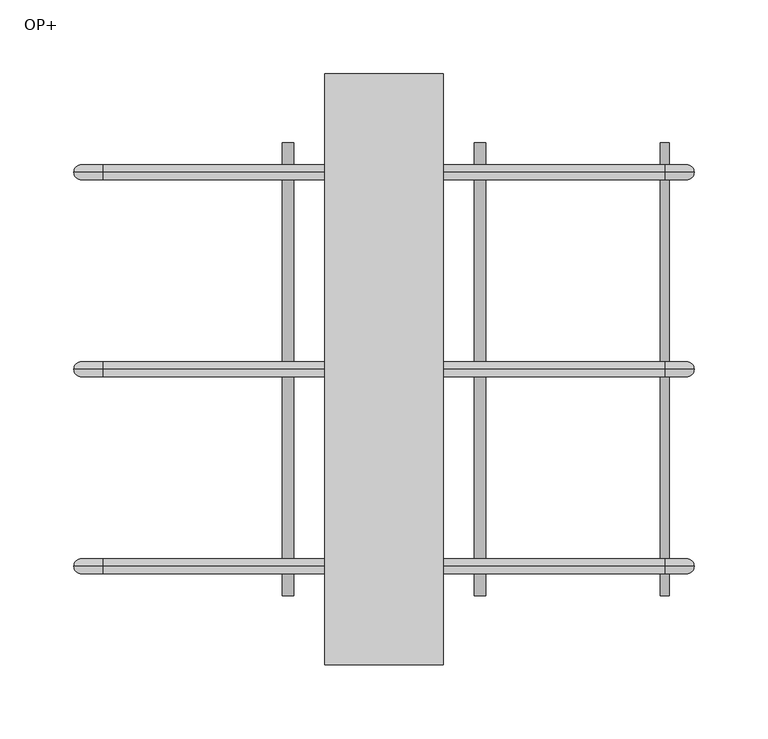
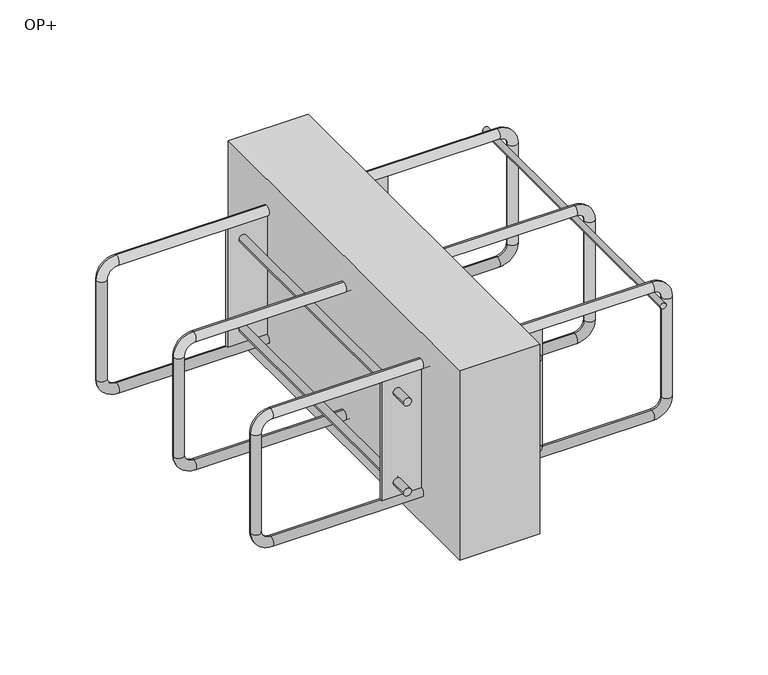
"""IFC4 building model written with IfcOpenShell, lengths in millimetres: proxy geometry, ACINOXplus_Typenreihe_Ux-Ox : OP+."""

import ifcopenshell
import ifcopenshell.guid

model = None  # the IFC model being written
_history = None  # IfcOwnerHistory: only IFC2X3 demands one
_inside = {}  # id of a spatial element -> (the spatial element, [elements in it])
_under = {}  # id of a project, library or spatial element -> (it, [spatial elements below it])
_declared = {}  # id of a project -> (the project, [libraries it declares])
_typed = {}  # id of a type object -> (the type object, [elements of that type])
_made_of = {}  # id of a material, layer set ... -> (it, [elements and type objects made of it])


def new_model(schema):
    """Start an empty IFC model of exactly this schema.

    Asked for "IFC4X3", IfcOpenShell would pick the latest addendum, in which some entities
    have other attributes; the version numbers below select the first issue.
    IFC2X3 requires an IfcOwnerHistory on every rooted entity: one is made here for all.
    """
    global model, _history
    if schema == "IFC4X3":
        model = ifcopenshell.file(schema_version=(4, 3, 0, 0))
    else:
        model = ifcopenshell.file(schema=schema)
    _inside.clear()
    _under.clear()
    _declared.clear()
    _typed.clear()
    _made_of.clear()
    _history = None
    if model.schema == "IFC2X3":
        org = make("IfcOrganization", Name="unknown")
        user = make(
            "IfcPersonAndOrganization",
            ThePerson=make("IfcPerson", FamilyName="unknown"),
            TheOrganization=org,
        )
        app = make(
            "IfcApplication",
            ApplicationDeveloper=org,
            Version="unknown",
            ApplicationFullName="unknown",
            ApplicationIdentifier="unknown",
        )
        _history = make(
            "IfcOwnerHistory",
            OwningUser=user,
            OwningApplication=app,
            ChangeAction="ADDED",
            CreationDate=0,
        )
    return model


def make(cls, **values):
    """One entity of the class cls with the attributes given. An attribute that is None is left unset."""
    return model.create_entity(
        cls, **{name: value for name, value in values.items() if value is not None}
    )


def rooted(cls, **values):
    """An entity with a GlobalId (a new one), such as an element, a storey or a relation."""
    return make(cls, GlobalId=ifcopenshell.guid.new(), OwnerHistory=_history, **values)


def si_unit(unit_type, name, prefix=None):
    """IfcSIUnit, for example si_unit("LENGTHUNIT", "METRE", prefix="MILLI")."""
    return make("IfcSIUnit", UnitType=unit_type, Prefix=prefix, Name=name)


def assignment(units):
    """IfcUnitAssignment: the units of a project."""
    return None if units is None else make("IfcUnitAssignment", Units=units)


def point(xyz):
    """IfcCartesianPoint."""
    return None if xyz is None else make("IfcCartesianPoint", Coordinates=xyz)


def direction(xyz):
    """IfcDirection."""
    return None if xyz is None else make("IfcDirection", DirectionRatios=xyz)


def frame(location, z_axis=None, x_axis=None):
    """IfcAxis2Placement3D, a coordinate frame: its origin and axes. An axis left out is left unset."""
    return make(
        "IfcAxis2Placement3D",
        Location=point(location),
        Axis=direction(z_axis),
        RefDirection=direction(x_axis),
    )


def frame_2d(location, x_axis=None):
    """IfcAxis2Placement2D, a coordinate frame in the plane: its origin and x axis."""
    return make(
        "IfcAxis2Placement2D", Location=point(location), RefDirection=direction(x_axis)
    )


def origin():
    """The frame at (0, 0, 0) with its axes left unset."""
    return frame((0.0, 0.0, 0.0))


def place(relative_to, where):
    """IfcLocalPlacement: puts the frame where relative to a parent placement (None: the world)."""
    return make(
        "IfcLocalPlacement", PlacementRelTo=relative_to, RelativePlacement=where
    )


def context(
    kind, dimensions, precision=None, world=None, true_north=None, identifier=None
):
    """IfcGeometricRepresentationContext, for example the 3D "Model" context."""
    return make(
        "IfcGeometricRepresentationContext",
        ContextIdentifier=identifier,
        ContextType=kind,
        CoordinateSpaceDimension=dimensions,
        Precision=precision,
        WorldCoordinateSystem=world,
        TrueNorth=true_north,
    )


def project(units=None, contexts=None):
    """IfcProject with its units and contexts."""
    return rooted(
        "IfcProject",
        Name="project",
        RepresentationContexts=contexts,
        UnitsInContext=assignment(units),
    )


def spatial(cls, under=None, at=None, **own):
    """A site, building, storey or space (cls), placed at a placement, below another one or the project."""
    s = rooted(cls, ObjectPlacement=at, **own)
    if under is not None:
        _under.setdefault(under.id(), (under, []))[1].append(s)
    return s


def polyline(points):
    """IfcPolyline through the points."""
    return make("IfcPolyline", Points=[point(p) for p in points])


def circle_curve(where, radius):
    """IfcCircle in the frame where."""
    return make("IfcCircle", Position=where, Radius=radius)


def ellipse_curve(where, semi_axis1, semi_axis2):
    """IfcEllipse in the frame where."""
    return make(
        "IfcEllipse", Position=where, SemiAxis1=semi_axis1, SemiAxis2=semi_axis2
    )


def trimmed(basis, trim1, trim2, sense, master):
    """IfcTrimmedCurve: the piece of a basis curve between two trims."""
    return make(
        "IfcTrimmedCurve",
        BasisCurve=basis,
        Trim1=trim1,
        Trim2=trim2,
        SenseAgreement=sense,
        MasterRepresentation=master,
    )


def segment(curve, same_sense, transition):
    """IfcCompositeCurveSegment."""
    return make(
        "IfcCompositeCurveSegment",
        Transition=transition,
        SameSense=same_sense,
        ParentCurve=curve,
    )


def composite_curve(segments, self_intersect=None):
    """IfcCompositeCurve: segments joined end to end."""
    return make("IfcCompositeCurve", Segments=segments, SelfIntersect=self_intersect)


def outline(outer, holes=None, kind="AREA"):
    """IfcArbitraryClosedProfileDef: a profile drawn as a closed curve; with holes, ...WithVoids."""
    if holes is None:
        return make("IfcArbitraryClosedProfileDef", ProfileType=kind, OuterCurve=outer)
    return make(
        "IfcArbitraryProfileDefWithVoids",
        ProfileType=kind,
        OuterCurve=outer,
        InnerCurves=holes,
    )


def extrude(swept, where, along, depth):
    """IfcExtrudedAreaSolid: the profile swept, set in the frame where, extruded along a direction by depth."""
    return make(
        "IfcExtrudedAreaSolid",
        SweptArea=swept,
        Position=where,
        ExtrudedDirection=direction(along),
        Depth=depth,
    )


def shape(context_of_items, identifier, shape_type, items):
    """IfcShapeRepresentation: the items that make up one representation, for example the "Body"."""
    return make(
        "IfcShapeRepresentation",
        ContextOfItems=context_of_items,
        RepresentationIdentifier=identifier,
        RepresentationType=shape_type,
        Items=items,
    )


def source(mapping_origin, context_of_items, identifier, shape_type, items):
    """IfcRepresentationMap: a shape defined once, which mapped items show again and again."""
    return make(
        "IfcRepresentationMap",
        MappingOrigin=mapping_origin,
        MappedRepresentation=shape(context_of_items, identifier, shape_type, items),
    )


def transform(
    local_origin,
    x_axis=None,
    y_axis=None,
    z_axis=None,
    scale=None,
    scale2=None,
    scale3=None,
    uniform=True,
):
    """IfcCartesianTransformationOperator3D, or its non-uniform kind. x_axis, y_axis, z_axis: its Axis1, 2, 3."""
    if uniform:
        return make(
            "IfcCartesianTransformationOperator3D",
            Axis1=direction(x_axis),
            Axis2=direction(y_axis),
            LocalOrigin=point(local_origin),
            Scale=scale,
            Axis3=direction(z_axis),
        )
    return make(
        "IfcCartesianTransformationOperator3DnonUniform",
        Axis1=direction(x_axis),
        Axis2=direction(y_axis),
        LocalOrigin=point(local_origin),
        Scale=scale,
        Axis3=direction(z_axis),
        Scale2=scale2,
        Scale3=scale3,
    )


def mapped(mapping_source, mapping_target):
    """IfcMappedItem: shows the shape of a source again, moved by a transform."""
    return make(
        "IfcMappedItem", MappingSource=mapping_source, MappingTarget=mapping_target
    )


def made_of(thing, what):
    """Note that an element or type object is made of a material, layer set ...; save() writes the relation."""
    if what is not None:
        _made_of.setdefault(what.id(), (what, []))[1].append(thing)
    return thing


def element(
    cls,
    number,
    at=None,
    inside=None,
    cuts=None,
    type_object=None,
    material=None,
    context=None,
    identifier="Body",
    shape_type=None,
    held_by="IfcProductDefinitionShape",
    body=None,
    shapes=None,
    **own,
):
    """One element of the class cls, such as IfcWall. Its Tag is "e" and its number.

    at: its placement. inside: the storey or other place that contains it. cuts: it is an
    opening in that element (IfcRelVoidsElement). A single representation is given by context,
    identifier, shape_type and body (its items); several are given by shapes. held_by: the class
    of the entity that holds the representations. save() writes the other relations.
    """
    e = rooted(cls, Tag="e%d" % number, ObjectPlacement=at, **own)
    if body is not None:
        shapes = [shape(context, identifier, shape_type, body)]
    if shapes is not None:
        e.Representation = make(held_by, Representations=shapes)
    if inside is not None:
        _inside.setdefault(inside.id(), (inside, []))[1].append(e)
    if cuts is not None:
        rooted(
            "IfcRelVoidsElement", RelatingBuildingElement=cuts, RelatedOpeningElement=e
        )
    if type_object is not None:
        _typed.setdefault(type_object.id(), (type_object, []))[1].append(e)
    return made_of(e, material)


def aggregate(whole, parts):
    """IfcRelAggregates: a whole, such as a stair, and the parts it consists of."""
    return rooted("IfcRelAggregates", RelatingObject=whole, RelatedObjects=parts)


def save(model, path):
    """Write the relations noted so far, then the file.

    IfcRelAggregates (storeys below a building ...), IfcRelContainedInSpatialStructure (elements
    in a storey), IfcRelDefinesByType, IfcRelAssociatesMaterial and IfcRelDeclares: one each for
    every whole, place, type object, material and project.
    """
    for whole, parts in _under.values():
        aggregate(whole, parts)
    for where, things in _inside.values():
        rooted(
            "IfcRelContainedInSpatialStructure",
            RelatedElements=things,
            RelatingStructure=where,
        )
    for kind, things in _typed.values():
        rooted("IfcRelDefinesByType", RelatedObjects=things, RelatingType=kind)
    for what, things in _made_of.values():
        rooted("IfcRelAssociatesMaterial", RelatedObjects=things, RelatingMaterial=what)
    for by, libraries in _declared.values():
        rooted("IfcRelDeclares", RelatingContext=by, RelatedDefinitions=libraries)
    model.write(path)


def cylinder_surface(at, radius):
    """IfcCylindricalSurface: all points at the distance radius from the z axis of the frame at."""
    return make("IfcCylindricalSurface", Position=at, Radius=radius)


def revolved_surface(curve, axis_point, axis_direction):
    """IfcSurfaceOfRevolution: the curve turned about the line through axis_point along axis_direction."""
    return make(
        "IfcSurfaceOfRevolution",
        SweptCurve=make("IfcArbitraryOpenProfileDef", ProfileType="CURVE", Curve=curve),
        AxisPosition=make("IfcAxis1Placement", Location=point(axis_point), Axis=direction(axis_direction)),
    )


def advanced_brep(points, edges, surfaces, faces):
    """IfcAdvancedBrep: a solid bounded by faces that lie on surfaces and meet in shared edges.

    An edge is (start, end): straight between two places in points (the first is 0);
    or (start, end, curve); or (start, end, curve, False) where it runs against its curve.
    A face is (place in surfaces, loops), or (place, loops, False) where it looks against
    its surface's normal. A loop lists edges by number (the first is 1), with a minus sign
    where the edge is run from its end to its start. The first loop is the outer one.
    """
    corners = [point(p) for p in points]
    vertices = [make("IfcVertexPoint", VertexGeometry=c) for c in corners]
    made = []
    for start, end, *more in edges:
        made.append(
            make(
                "IfcEdgeCurve",
                EdgeStart=vertices[start],
                EdgeEnd=vertices[end],
                EdgeGeometry=more[0] if more else make("IfcPolyline", Points=[corners[start], corners[end]]),
                SameSense=more[1] if len(more) > 1 else True,
            )
        )
    hull = []
    for where, loops, *sense in faces:
        bounds = []
        for j, loop in enumerate(loops):
            ring = [make("IfcOrientedEdge", EdgeElement=made[abs(k) - 1], Orientation=k > 0) for k in loop]
            bounds.append(
                make(
                    "IfcFaceOuterBound" if j == 0 else "IfcFaceBound",
                    Bound=make("IfcEdgeLoop", EdgeList=ring),
                    Orientation=True,
                )
            )
        hull.append(make("IfcAdvancedFace", Bounds=bounds, FaceSurface=surfaces[where], SameSense=sense[0] if sense else True))
    return make("IfcAdvancedBrep", Outer=make("IfcClosedShell", CfsFaces=hull))


def op_9fb88730(model_context):
    return source(origin(), model_context, "Body", "SolidModel", [
        extrude(outline(composite_curve([segment(trimmed(circle_curve(frame_2d((-40.5, 190.0)), 3.0), [point((-40.5, 193.0))], [point((-40.5, 187.0))], False, "CARTESIAN"), True, "CONTINUOUS"), segment(trimmed(circle_curve(frame_2d((-40.5, 190.0)), 3.0), [point((-40.5, 187.0))], [point((-40.5, 193.0))], False, "CARTESIAN"), True, "CONTINUOUS")], self_intersect=False)), frame((0.0, -153.3333333, 0.0), z_axis=(0.0, 1.0, 0.0), x_axis=(0.0, 0.0, 1.0)), (0.0, 0.0, 1.0), 306.6666667),
        extrude(outline(polyline([(40.0, 200.0), (40.0, -200.0), (-40.0, -200.0), (-40.0, 200.0), (40.0, 200.0)])), frame((0.0, 0.0, -200.0), z_axis=(0.0, 0.0, 1.0), x_axis=(1.0, 0.0, 0.0)), (0.0, 0.0, 1.0), 200.0),
        extrude(outline(polyline([(80.0, -131.8333333), (80.0, -134.8333333), (-80.0, -134.8333333), (-80.0, -131.8333333), (80.0, -131.8333333)])), frame((0.0, 0.0, -162.5), z_axis=(0.0, 0.0, 1.0), x_axis=(1.0, 0.0, 0.0)), (0.0, 0.0, 1.0), 125.0),
        extrude(outline(polyline([(80.0, 134.8333333), (80.0, 131.8333333), (-80.0, 131.8333333), (-80.0, 134.8333333), (80.0, 134.8333333)])), frame((0.0, 0.0, -162.5), z_axis=(0.0, 0.0, 1.0), x_axis=(1.0, 0.0, 0.0)), (0.0, 0.0, 1.0), 125.0),
        extrude(outline(composite_curve([segment(trimmed(circle_curve(frame_2d((-147.5, -65.0)), 4.0), [point((-147.5, -69.0))], [point((-147.5, -61.0))], False, "CARTESIAN"), True, "CONTINUOUS"), segment(trimmed(circle_curve(frame_2d((-147.5, -65.0)), 4.0), [point((-147.5, -61.0))], [point((-147.5, -69.0))], False, "CARTESIAN"), True, "CONTINUOUS")], self_intersect=False)), frame((0.0, 134.8333333, 0.0), z_axis=(0.0, 1.0, 0.0), x_axis=(0.0, 0.0, 1.0)), (0.0, 0.0, 1.0), 18.5),
        extrude(outline(composite_curve([segment(trimmed(circle_curve(frame_2d((-147.5, -65.0)), 4.0), [point((-147.5, -61.0))], [point((-147.5, -69.0))], False, "CARTESIAN"), True, "CONTINUOUS"), segment(trimmed(circle_curve(frame_2d((-147.5, -65.0)), 4.0), [point((-147.5, -69.0))], [point((-147.5, -61.0))], False, "CARTESIAN"), True, "CONTINUOUS")], self_intersect=False)), frame((0.0, -153.3333333, 0.0), z_axis=(0.0, 1.0, 0.0), x_axis=(0.0, 0.0, 1.0)), (0.0, 0.0, 1.0), 18.5),
        extrude(outline(composite_curve([segment(trimmed(circle_curve(frame_2d((-147.5, -65.0)), 4.0), [point((-147.5, -69.0))], [point((-147.5, -61.0))], False, "CARTESIAN"), True, "CONTINUOUS"), segment(trimmed(circle_curve(frame_2d((-147.5, -65.0)), 4.0), [point((-147.5, -61.0))], [point((-147.5, -69.0))], False, "CARTESIAN"), True, "CONTINUOUS")], self_intersect=False)), frame((0.0, -131.8333333, 0.0), z_axis=(0.0, 1.0, 0.0), x_axis=(0.0, 0.0, 1.0)), (0.0, 0.0, 1.0), 263.6666667),
        extrude(outline(composite_curve([segment(trimmed(circle_curve(frame_2d((-147.5, 65.0)), 4.0), [point((-147.5, 61.0))], [point((-147.5, 69.0))], False, "CARTESIAN"), True, "CONTINUOUS"), segment(trimmed(circle_curve(frame_2d((-147.5, 65.0)), 4.0), [point((-147.5, 69.0))], [point((-147.5, 61.0))], False, "CARTESIAN"), True, "CONTINUOUS")], self_intersect=False)), frame((0.0, 134.8333333, 0.0), z_axis=(0.0, 1.0, 0.0), x_axis=(0.0, 0.0, 1.0)), (0.0, 0.0, 1.0), 18.5),
        extrude(outline(composite_curve([segment(trimmed(circle_curve(frame_2d((-147.5, 65.0)), 4.0), [point((-147.5, 69.0))], [point((-147.5, 61.0))], False, "CARTESIAN"), True, "CONTINUOUS"), segment(trimmed(circle_curve(frame_2d((-147.5, 65.0)), 4.0), [point((-147.5, 61.0))], [point((-147.5, 69.0))], False, "CARTESIAN"), True, "CONTINUOUS")], self_intersect=False)), frame((0.0, -153.3333333, 0.0), z_axis=(0.0, 1.0, 0.0), x_axis=(0.0, 0.0, 1.0)), (0.0, 0.0, 1.0), 18.5),
        extrude(outline(composite_curve([segment(trimmed(circle_curve(frame_2d((-147.5, 65.0)), 4.0), [point((-147.5, 61.0))], [point((-147.5, 69.0))], False, "CARTESIAN"), True, "CONTINUOUS"), segment(trimmed(circle_curve(frame_2d((-147.5, 65.0)), 4.0), [point((-147.5, 69.0))], [point((-147.5, 61.0))], False, "CARTESIAN"), True, "CONTINUOUS")], self_intersect=False)), frame((0.0, -131.8333333, 0.0), z_axis=(0.0, 1.0, 0.0), x_axis=(0.0, 0.0, 1.0)), (0.0, 0.0, 1.0), 263.6666667),
        extrude(outline(composite_curve([segment(trimmed(circle_curve(frame_2d((-52.5, -65.0)), 4.0), [point((-52.5, -69.0))], [point((-52.5, -61.0))], False, "CARTESIAN"), True, "CONTINUOUS"), segment(trimmed(circle_curve(frame_2d((-52.5, -65.0)), 4.0), [point((-52.5, -61.0))], [point((-52.5, -69.0))], False, "CARTESIAN"), True, "CONTINUOUS")], self_intersect=False)), frame((0.0, 134.8333333, 0.0), z_axis=(0.0, 1.0, 0.0), x_axis=(0.0, 0.0, 1.0)), (0.0, 0.0, 1.0), 18.5),
        extrude(outline(composite_curve([segment(trimmed(circle_curve(frame_2d((-52.5, -65.0)), 4.0), [point((-52.5, -61.0))], [point((-52.5, -69.0))], False, "CARTESIAN"), True, "CONTINUOUS"), segment(trimmed(circle_curve(frame_2d((-52.5, -65.0)), 4.0), [point((-52.5, -69.0))], [point((-52.5, -61.0))], False, "CARTESIAN"), True, "CONTINUOUS")], self_intersect=False)), frame((0.0, -153.3333333, 0.0), z_axis=(0.0, 1.0, 0.0), x_axis=(0.0, 0.0, 1.0)), (0.0, 0.0, 1.0), 18.5),
        extrude(outline(composite_curve([segment(trimmed(circle_curve(frame_2d((-52.5, -65.0)), 4.0), [point((-52.5, -69.0))], [point((-52.5, -61.0))], False, "CARTESIAN"), True, "CONTINUOUS"), segment(trimmed(circle_curve(frame_2d((-52.5, -65.0)), 4.0), [point((-52.5, -61.0))], [point((-52.5, -69.0))], False, "CARTESIAN"), True, "CONTINUOUS")], self_intersect=False)), frame((0.0, -131.8333333, 0.0), z_axis=(0.0, 1.0, 0.0), x_axis=(0.0, 0.0, 1.0)), (0.0, 0.0, 1.0), 263.6666667),
        extrude(outline(composite_curve([segment(trimmed(circle_curve(frame_2d((-52.5, 65.0)), 4.0), [point((-52.5, 61.0))], [point((-52.5, 69.0))], False, "CARTESIAN"), True, "CONTINUOUS"), segment(trimmed(circle_curve(frame_2d((-52.5, 65.0)), 4.0), [point((-52.5, 69.0))], [point((-52.5, 61.0))], False, "CARTESIAN"), True, "CONTINUOUS")], self_intersect=False)), frame((0.0, 134.8333333, 0.0), z_axis=(0.0, 1.0, 0.0), x_axis=(0.0, 0.0, 1.0)), (0.0, 0.0, 1.0), 18.5),
        extrude(outline(composite_curve([segment(trimmed(circle_curve(frame_2d((-52.5, 65.0)), 4.0), [point((-52.5, 69.0))], [point((-52.5, 61.0))], False, "CARTESIAN"), True, "CONTINUOUS"), segment(trimmed(circle_curve(frame_2d((-52.5, 65.0)), 4.0), [point((-52.5, 61.0))], [point((-52.5, 69.0))], False, "CARTESIAN"), True, "CONTINUOUS")], self_intersect=False)), frame((0.0, -153.3333333, 0.0), z_axis=(0.0, 1.0, 0.0), x_axis=(0.0, 0.0, 1.0)), (0.0, 0.0, 1.0), 18.5),
        extrude(outline(composite_curve([segment(trimmed(circle_curve(frame_2d((-52.5, 65.0)), 4.0), [point((-52.5, 61.0))], [point((-52.5, 69.0))], False, "CARTESIAN"), True, "CONTINUOUS"), segment(trimmed(circle_curve(frame_2d((-52.5, 65.0)), 4.0), [point((-52.5, 69.0))], [point((-52.5, 61.0))], False, "CARTESIAN"), True, "CONTINUOUS")], self_intersect=False)), frame((0.0, -131.8333333, 0.0), z_axis=(0.0, 1.0, 0.0), x_axis=(0.0, 0.0, 1.0)), (0.0, 0.0, 1.0), 263.6666667),
        advanced_brep(
        [(190.0, 0.0, -37.5), (190.0, 0.0, -27.5), (-190.0, 0.0, -27.5), (-190.0, 0.0, -37.5), (-200.0, 0.0, -47.5), (-210.0, 0.0, -47.5), (-210.0, 0.0, -152.5), (-200.0, 0.0, -152.5), (-190.0, 0.0, -162.5), (-190.0, 0.0, -172.5), (190.0, 0.0, -172.5), (190.0, 0.0, -162.5), (200.0, 0.0, -152.5), (210.0, 0.0, -152.5), (210.0, 0.0, -47.5), (200.0, 0.0, -47.5)],
        [
            (0, 1, circle_curve(frame((190.0, 0.0, -32.5), z_axis=(-1.0, 0.0, 0.0), x_axis=(0.0, 0.0, -1.0)), 5.0)),
            (1, 2),
            (2, 3, circle_curve(frame((-190.0, 0.0, -32.5), z_axis=(1.0, 0.0, 0.0), x_axis=(0.0, 0.0, -1.0)), 5.0)),
            (3, 0),
            (1, 0, circle_curve(frame((190.0, 0.0, -32.5), z_axis=(-1.0, 0.0, 0.0), x_axis=(0.0, 0.0, -1.0)), 5.0)),
            (3, 2, circle_curve(frame((-190.0, 0.0, -32.5), z_axis=(1.0, 0.0, 0.0), x_axis=(0.0, 0.0, -1.0)), 5.0)),
            (4, 3, circle_curve(frame((-190.0, 0.0, -47.5), z_axis=(0.0, 1.0, 0.0), x_axis=(0.0, 0.0, 1.0)), 10.0)),
            (2, 5, circle_curve(frame((-190.0, 0.0, -47.5), z_axis=(0.0, -1.0, 0.0), x_axis=(0.0, 0.0, 1.0)), 20.0)),
            (5, 4, circle_curve(frame((-205.0, 0.0, -47.5), z_axis=(0.0, 0.0, 1.0), x_axis=(1.0, 0.0, 0.0)), 5.0)),
            (4, 5, circle_curve(frame((-205.0, 0.0, -47.5), z_axis=(0.0, 0.0, 1.0), x_axis=(1.0, 0.0, 0.0)), 5.0)),
            (5, 6),
            (6, 7, circle_curve(frame((-205.0, 0.0, -152.5), z_axis=(0.0, 0.0, 1.0), x_axis=(1.0, 0.0, 0.0)), 5.0)),
            (7, 4),
            (7, 6, circle_curve(frame((-205.0, 0.0, -152.5), z_axis=(0.0, 0.0, 1.0), x_axis=(1.0, 0.0, 0.0)), 5.0)),
            (8, 7, circle_curve(frame((-190.0, 0.0, -152.5), z_axis=(0.0, 1.0, 0.0), x_axis=(-1.0, 0.0, 0.0)), 10.0)),
            (6, 9, circle_curve(frame((-190.0, 0.0, -152.5), z_axis=(0.0, -1.0, 0.0), x_axis=(-1.0, 0.0, 0.0)), 20.0)),
            (9, 8, circle_curve(frame((-190.0, 0.0, -167.5), z_axis=(-1.0, 0.0, 0.0), x_axis=(0.0, 0.0, 1.0)), 5.0)),
            (8, 9, circle_curve(frame((-190.0, 0.0, -167.5), z_axis=(-1.0, 0.0, 0.0), x_axis=(0.0, 0.0, 1.0)), 5.0)),
            (9, 10),
            (10, 11, circle_curve(frame((190.0, 0.0, -167.5), z_axis=(-1.0, 0.0, 0.0), x_axis=(0.0, 0.0, 1.0)), 5.0)),
            (11, 8),
            (11, 10, circle_curve(frame((190.0, 0.0, -167.5), z_axis=(-1.0, 0.0, 0.0), x_axis=(0.0, 0.0, 1.0)), 5.0)),
            (12, 11, circle_curve(frame((190.0, 0.0, -152.5), z_axis=(0.0, 1.0, 0.0), x_axis=(0.0, 0.0, -1.0)), 10.0)),
            (10, 13, circle_curve(frame((190.0, 0.0, -152.5), z_axis=(0.0, -1.0, 0.0), x_axis=(0.0, 0.0, -1.0)), 20.0)),
            (13, 12, circle_curve(frame((205.0, 0.0, -152.5), z_axis=(0.0, 0.0, -1.0), x_axis=(-1.0, 0.0, 0.0)), 5.0)),
            (12, 13, circle_curve(frame((205.0, 0.0, -152.5), z_axis=(0.0, 0.0, -1.0), x_axis=(-1.0, 0.0, 0.0)), 5.0)),
            (13, 14),
            (14, 15, circle_curve(frame((205.0, 0.0, -47.5), z_axis=(0.0, 0.0, -1.0), x_axis=(-1.0, 0.0, 0.0)), 5.0)),
            (15, 12),
            (15, 14, circle_curve(frame((205.0, 0.0, -47.5), z_axis=(0.0, 0.0, -1.0), x_axis=(-1.0, 0.0, 0.0)), 5.0)),
            (0, 15, circle_curve(frame((190.0, 0.0, -47.5), z_axis=(0.0, 1.0, 0.0), x_axis=(1.0, 0.0, 0.0)), 10.0)),
            (14, 1, circle_curve(frame((190.0, 0.0, -47.5), z_axis=(0.0, -1.0, 0.0), x_axis=(1.0, 0.0, 0.0)), 20.0)),
        ],
        [
            cylinder_surface(frame((190.0, 0.0, -32.5), z_axis=(1.0, 0.0, 0.0), x_axis=(0.0, 0.0, -1.0)), 5.0),
            revolved_surface(trimmed(ellipse_curve(frame((-190.0, 0.0, -32.5), z_axis=(1.0, 0.0, 0.0), x_axis=(0.0, 0.0, -1.0)), 5.0, 5.0), [point((-190.0, 0.0, -27.5))], [point((-190.0, 0.0, -37.5))], True, "CARTESIAN"), (-190.0, 0.0, -47.5), (0.0, -1.0, 0.0)),
            revolved_surface(trimmed(ellipse_curve(frame((-190.0, 0.0, -32.5), z_axis=(1.0, 0.0, 0.0), x_axis=(0.0, 0.0, -1.0)), 5.0, 5.0), [point((-190.0, 0.0, -37.5))], [point((-190.0, 0.0, -27.5))], True, "CARTESIAN"), (-190.0, 0.0, -47.5), (0.0, -1.0, 0.0)),
            cylinder_surface(frame((-205.0, 0.0, -47.5), z_axis=(0.0, 0.0, 1.0), x_axis=(1.0, 0.0, 0.0)), 5.0),
            revolved_surface(trimmed(ellipse_curve(frame((-205.0, 0.0, -152.5), z_axis=(0.0, 0.0, 1.0), x_axis=(1.0, 0.0, 0.0)), 5.0, 5.0), [point((-210.0, 0.0, -152.5))], [point((-200.0, 0.0, -152.5))], True, "CARTESIAN"), (-190.0, 0.0, -152.5), (0.0, -1.0, 0.0)),
            revolved_surface(trimmed(ellipse_curve(frame((-205.0, 0.0, -152.5), z_axis=(0.0, 0.0, 1.0), x_axis=(1.0, 0.0, 0.0)), 5.0, 5.0), [point((-200.0, 0.0, -152.5))], [point((-210.0, 0.0, -152.5))], True, "CARTESIAN"), (-190.0, 0.0, -152.5), (0.0, -1.0, 0.0)),
            cylinder_surface(frame((-190.0, 0.0, -167.5), z_axis=(-1.0, 0.0, 0.0), x_axis=(0.0, 0.0, 1.0)), 5.0),
            revolved_surface(trimmed(ellipse_curve(frame((190.0, 0.0, -167.5), z_axis=(-1.0, 0.0, 0.0), x_axis=(0.0, 0.0, 1.0)), 5.0, 5.0), [point((190.0, 0.0, -172.5))], [point((190.0, 0.0, -162.5))], True, "CARTESIAN"), (190.0, 0.0, -152.5), (0.0, -1.0, 0.0)),
            revolved_surface(trimmed(ellipse_curve(frame((190.0, 0.0, -167.5), z_axis=(-1.0, 0.0, 0.0), x_axis=(0.0, 0.0, 1.0)), 5.0, 5.0), [point((190.0, 0.0, -162.5))], [point((190.0, 0.0, -172.5))], True, "CARTESIAN"), (190.0, 0.0, -152.5), (0.0, -1.0, 0.0)),
            cylinder_surface(frame((205.0, 0.0, -152.5), z_axis=(0.0, 0.0, -1.0), x_axis=(-1.0, 0.0, 0.0)), 5.0),
            revolved_surface(trimmed(ellipse_curve(frame((205.0, 0.0, -47.5), z_axis=(0.0, 0.0, -1.0), x_axis=(-1.0, 0.0, 0.0)), 5.0, 5.0), [point((210.0, 0.0, -47.5))], [point((200.0, 0.0, -47.5))], True, "CARTESIAN"), (190.0, 0.0, -47.5), (0.0, -1.0, 0.0)),
            revolved_surface(trimmed(ellipse_curve(frame((205.0, 0.0, -47.5), z_axis=(0.0, 0.0, -1.0), x_axis=(-1.0, 0.0, 0.0)), 5.0, 5.0), [point((200.0, 0.0, -47.5))], [point((210.0, 0.0, -47.5))], True, "CARTESIAN"), (190.0, 0.0, -47.5), (0.0, -1.0, 0.0)),
        ],
        [
            (0, [[1, 2, 3, 4]]),
            (0, [[5, -4, 6, -2]]),
            (1, [[7, -3, 8, 9]]),
            (2, [[-8, -6, -7, 10]]),
            (3, [[-9, 11, 12, 13]]),
            (3, [[-10, -13, 14, -11]]),
            (4, [[15, -12, 16, 17]]),
            (5, [[-16, -14, -15, 18]]),
            (6, [[-17, 19, 20, 21]]),
            (6, [[-18, -21, 22, -19]]),
            (7, [[23, -20, 24, 25]]),
            (8, [[-24, -22, -23, 26]]),
            (9, [[-25, 27, 28, 29]]),
            (9, [[-26, -29, 30, -27]]),
            (10, [[31, -28, 32, -1]]),
            (11, [[-32, -30, -31, -5]]),
        ],
    ),
        advanced_brep(
        [(190.0, 133.3333333, -37.5), (190.0, 133.3333333, -27.5), (-190.0, 133.3333333, -27.5), (-190.0, 133.3333333, -37.5), (-200.0, 133.3333333, -47.5), (-210.0, 133.3333333, -47.5), (-210.0, 133.3333333, -152.5), (-200.0, 133.3333333, -152.5), (-190.0, 133.3333333, -162.5), (-190.0, 133.3333333, -172.5), (190.0, 133.3333333, -172.5), (190.0, 133.3333333, -162.5), (200.0, 133.3333333, -152.5), (210.0, 133.3333333, -152.5), (210.0, 133.3333333, -47.5), (200.0, 133.3333333, -47.5)],
        [
            (0, 1, circle_curve(frame((190.0, 133.3333333, -32.5), z_axis=(-1.0, 0.0, 0.0), x_axis=(0.0, 0.0, -1.0)), 5.0)),
            (1, 2),
            (2, 3, circle_curve(frame((-190.0, 133.3333333, -32.5), z_axis=(1.0, 0.0, 0.0), x_axis=(0.0, 0.0, -1.0)), 5.0)),
            (3, 0),
            (1, 0, circle_curve(frame((190.0, 133.3333333, -32.5), z_axis=(-1.0, 0.0, 0.0), x_axis=(0.0, 0.0, -1.0)), 5.0)),
            (3, 2, circle_curve(frame((-190.0, 133.3333333, -32.5), z_axis=(1.0, 0.0, 0.0), x_axis=(0.0, 0.0, -1.0)), 5.0)),
            (4, 3, circle_curve(frame((-190.0, 133.3333333, -47.5), z_axis=(0.0, 1.0, 0.0), x_axis=(0.0, 0.0, 1.0)), 10.0)),
            (2, 5, circle_curve(frame((-190.0, 133.3333333, -47.5), z_axis=(0.0, -1.0, 0.0), x_axis=(0.0, 0.0, 1.0)), 20.0)),
            (5, 4, circle_curve(frame((-205.0, 133.3333333, -47.5), z_axis=(0.0, 0.0, 1.0), x_axis=(1.0, 0.0, 0.0)), 5.0)),
            (4, 5, circle_curve(frame((-205.0, 133.3333333, -47.5), z_axis=(0.0, 0.0, 1.0), x_axis=(1.0, 0.0, 0.0)), 5.0)),
            (5, 6),
            (6, 7, circle_curve(frame((-205.0, 133.3333333, -152.5), z_axis=(0.0, 0.0, 1.0), x_axis=(1.0, 0.0, 0.0)), 5.0)),
            (7, 4),
            (7, 6, circle_curve(frame((-205.0, 133.3333333, -152.5), z_axis=(0.0, 0.0, 1.0), x_axis=(1.0, 0.0, 0.0)), 5.0)),
            (8, 7, circle_curve(frame((-190.0, 133.3333333, -152.5), z_axis=(0.0, 1.0, 0.0), x_axis=(-1.0, 0.0, 0.0)), 10.0)),
            (6, 9, circle_curve(frame((-190.0, 133.3333333, -152.5), z_axis=(0.0, -1.0, 0.0), x_axis=(-1.0, 0.0, 0.0)), 20.0)),
            (9, 8, circle_curve(frame((-190.0, 133.3333333, -167.5), z_axis=(-1.0, 0.0, 0.0), x_axis=(0.0, 0.0, 1.0)), 5.0)),
            (8, 9, circle_curve(frame((-190.0, 133.3333333, -167.5), z_axis=(-1.0, 0.0, 0.0), x_axis=(0.0, 0.0, 1.0)), 5.0)),
            (9, 10),
            (10, 11, circle_curve(frame((190.0, 133.3333333, -167.5), z_axis=(-1.0, 0.0, 0.0), x_axis=(0.0, 0.0, 1.0)), 5.0)),
            (11, 8),
            (11, 10, circle_curve(frame((190.0, 133.3333333, -167.5), z_axis=(-1.0, 0.0, 0.0), x_axis=(0.0, 0.0, 1.0)), 5.0)),
            (12, 11, circle_curve(frame((190.0, 133.3333333, -152.5), z_axis=(0.0, 1.0, 0.0), x_axis=(0.0, 0.0, -1.0)), 10.0)),
            (10, 13, circle_curve(frame((190.0, 133.3333333, -152.5), z_axis=(0.0, -1.0, 0.0), x_axis=(0.0, 0.0, -1.0)), 20.0)),
            (13, 12, circle_curve(frame((205.0, 133.3333333, -152.5), z_axis=(0.0, 0.0, -1.0), x_axis=(-1.0, 0.0, 0.0)), 5.0)),
            (12, 13, circle_curve(frame((205.0, 133.3333333, -152.5), z_axis=(0.0, 0.0, -1.0), x_axis=(-1.0, 0.0, 0.0)), 5.0)),
            (13, 14),
            (14, 15, circle_curve(frame((205.0, 133.3333333, -47.5), z_axis=(0.0, 0.0, -1.0), x_axis=(-1.0, 0.0, 0.0)), 5.0)),
            (15, 12),
            (15, 14, circle_curve(frame((205.0, 133.3333333, -47.5), z_axis=(0.0, 0.0, -1.0), x_axis=(-1.0, 0.0, 0.0)), 5.0)),
            (0, 15, circle_curve(frame((190.0, 133.3333333, -47.5), z_axis=(0.0, 1.0, 0.0), x_axis=(1.0, 0.0, 0.0)), 10.0)),
            (14, 1, circle_curve(frame((190.0, 133.3333333, -47.5), z_axis=(0.0, -1.0, 0.0), x_axis=(1.0, 0.0, 0.0)), 20.0)),
        ],
        [
            cylinder_surface(frame((190.0, 133.3333333, -32.5), z_axis=(1.0, 0.0, 0.0), x_axis=(0.0, 0.0, -1.0)), 5.0),
            revolved_surface(trimmed(ellipse_curve(frame((-190.0, 133.3333333, -32.5), z_axis=(1.0, 0.0, 0.0), x_axis=(0.0, 0.0, -1.0)), 5.0, 5.0), [point((-190.0, 133.3333333, -27.5))], [point((-190.0, 133.3333333, -37.5))], True, "CARTESIAN"), (-190.0, 133.3333333, -47.5), (0.0, -1.0, 0.0)),
            revolved_surface(trimmed(ellipse_curve(frame((-190.0, 133.3333333, -32.5), z_axis=(1.0, 0.0, 0.0), x_axis=(0.0, 0.0, -1.0)), 5.0, 5.0), [point((-190.0, 133.3333333, -37.5))], [point((-190.0, 133.3333333, -27.5))], True, "CARTESIAN"), (-190.0, 133.3333333, -47.5), (0.0, -1.0, 0.0)),
            cylinder_surface(frame((-205.0, 133.3333333, -47.5), z_axis=(0.0, 0.0, 1.0), x_axis=(1.0, 0.0, 0.0)), 5.0),
            revolved_surface(trimmed(ellipse_curve(frame((-205.0, 133.3333333, -152.5), z_axis=(0.0, 0.0, 1.0), x_axis=(1.0, 0.0, 0.0)), 5.0, 5.0), [point((-210.0, 133.3333333, -152.5))], [point((-200.0, 133.3333333, -152.5))], True, "CARTESIAN"), (-190.0, 133.3333333, -152.5), (0.0, -1.0, 0.0)),
            revolved_surface(trimmed(ellipse_curve(frame((-205.0, 133.3333333, -152.5), z_axis=(0.0, 0.0, 1.0), x_axis=(1.0, 0.0, 0.0)), 5.0, 5.0), [point((-200.0, 133.3333333, -152.5))], [point((-210.0, 133.3333333, -152.5))], True, "CARTESIAN"), (-190.0, 133.3333333, -152.5), (0.0, -1.0, 0.0)),
            cylinder_surface(frame((-190.0, 133.3333333, -167.5), z_axis=(-1.0, 0.0, 0.0), x_axis=(0.0, 0.0, 1.0)), 5.0),
            revolved_surface(trimmed(ellipse_curve(frame((190.0, 133.3333333, -167.5), z_axis=(-1.0, 0.0, 0.0), x_axis=(0.0, 0.0, 1.0)), 5.0, 5.0), [point((190.0, 133.3333333, -172.5))], [point((190.0, 133.3333333, -162.5))], True, "CARTESIAN"), (190.0, 133.3333333, -152.5), (0.0, -1.0, 0.0)),
            revolved_surface(trimmed(ellipse_curve(frame((190.0, 133.3333333, -167.5), z_axis=(-1.0, 0.0, 0.0), x_axis=(0.0, 0.0, 1.0)), 5.0, 5.0), [point((190.0, 133.3333333, -162.5))], [point((190.0, 133.3333333, -172.5))], True, "CARTESIAN"), (190.0, 133.3333333, -152.5), (0.0, -1.0, 0.0)),
            cylinder_surface(frame((205.0, 133.3333333, -152.5), z_axis=(0.0, 0.0, -1.0), x_axis=(-1.0, 0.0, 0.0)), 5.0),
            revolved_surface(trimmed(ellipse_curve(frame((205.0, 133.3333333, -47.5), z_axis=(0.0, 0.0, -1.0), x_axis=(-1.0, 0.0, 0.0)), 5.0, 5.0), [point((210.0, 133.3333333, -47.5))], [point((200.0, 133.3333333, -47.5))], True, "CARTESIAN"), (190.0, 133.3333333, -47.5), (0.0, -1.0, 0.0)),
            revolved_surface(trimmed(ellipse_curve(frame((205.0, 133.3333333, -47.5), z_axis=(0.0, 0.0, -1.0), x_axis=(-1.0, 0.0, 0.0)), 5.0, 5.0), [point((200.0, 133.3333333, -47.5))], [point((210.0, 133.3333333, -47.5))], True, "CARTESIAN"), (190.0, 133.3333333, -47.5), (0.0, -1.0, 0.0)),
        ],
        [
            (0, [[1, 2, 3, 4]]),
            (0, [[5, -4, 6, -2]]),
            (1, [[7, -3, 8, 9]]),
            (2, [[-8, -6, -7, 10]]),
            (3, [[-9, 11, 12, 13]]),
            (3, [[-10, -13, 14, -11]]),
            (4, [[15, -12, 16, 17]]),
            (5, [[-16, -14, -15, 18]]),
            (6, [[-17, 19, 20, 21]]),
            (6, [[-18, -21, 22, -19]]),
            (7, [[23, -20, 24, 25]]),
            (8, [[-24, -22, -23, 26]]),
            (9, [[-25, 27, 28, 29]]),
            (9, [[-26, -29, 30, -27]]),
            (10, [[31, -28, 32, -1]]),
            (11, [[-32, -30, -31, -5]]),
        ],
    ),
        advanced_brep(
        [(190.0, -133.3333333, -37.5), (190.0, -133.3333333, -27.5), (-190.0, -133.3333333, -27.5), (-190.0, -133.3333333, -37.5), (-200.0, -133.3333333, -47.5), (-210.0, -133.3333333, -47.5), (-210.0, -133.3333333, -152.5), (-200.0, -133.3333333, -152.5), (-190.0, -133.3333333, -162.5), (-190.0, -133.3333333, -172.5), (190.0, -133.3333333, -172.5), (190.0, -133.3333333, -162.5), (200.0, -133.3333333, -152.5), (210.0, -133.3333333, -152.5), (210.0, -133.3333333, -47.5), (200.0, -133.3333333, -47.5)],
        [
            (0, 1, circle_curve(frame((190.0, -133.3333333, -32.5), z_axis=(-1.0, 0.0, 0.0), x_axis=(0.0, 0.0, -1.0)), 5.0)),
            (1, 2),
            (2, 3, circle_curve(frame((-190.0, -133.3333333, -32.5), z_axis=(1.0, 0.0, 0.0), x_axis=(0.0, 0.0, -1.0)), 5.0)),
            (3, 0),
            (1, 0, circle_curve(frame((190.0, -133.3333333, -32.5), z_axis=(-1.0, 0.0, 0.0), x_axis=(0.0, 0.0, -1.0)), 5.0)),
            (3, 2, circle_curve(frame((-190.0, -133.3333333, -32.5), z_axis=(1.0, 0.0, 0.0), x_axis=(0.0, 0.0, -1.0)), 5.0)),
            (4, 3, circle_curve(frame((-190.0, -133.3333333, -47.5), z_axis=(0.0, 1.0, 0.0), x_axis=(0.0, 0.0, 1.0)), 10.0)),
            (2, 5, circle_curve(frame((-190.0, -133.3333333, -47.5), z_axis=(0.0, -1.0, 0.0), x_axis=(0.0, 0.0, 1.0)), 20.0)),
            (5, 4, circle_curve(frame((-205.0, -133.3333333, -47.5), z_axis=(0.0, 0.0, 1.0), x_axis=(1.0, 0.0, 0.0)), 5.0)),
            (4, 5, circle_curve(frame((-205.0, -133.3333333, -47.5), z_axis=(0.0, 0.0, 1.0), x_axis=(1.0, 0.0, 0.0)), 5.0)),
            (5, 6),
            (6, 7, circle_curve(frame((-205.0, -133.3333333, -152.5), z_axis=(0.0, 0.0, 1.0), x_axis=(1.0, 0.0, 0.0)), 5.0)),
            (7, 4),
            (7, 6, circle_curve(frame((-205.0, -133.3333333, -152.5), z_axis=(0.0, 0.0, 1.0), x_axis=(1.0, 0.0, 0.0)), 5.0)),
            (8, 7, circle_curve(frame((-190.0, -133.3333333, -152.5), z_axis=(0.0, 1.0, 0.0), x_axis=(-1.0, 0.0, 0.0)), 10.0)),
            (6, 9, circle_curve(frame((-190.0, -133.3333333, -152.5), z_axis=(0.0, -1.0, 0.0), x_axis=(-1.0, 0.0, 0.0)), 20.0)),
            (9, 8, circle_curve(frame((-190.0, -133.3333333, -167.5), z_axis=(-1.0, 0.0, 0.0), x_axis=(0.0, 0.0, 1.0)), 5.0)),
            (8, 9, circle_curve(frame((-190.0, -133.3333333, -167.5), z_axis=(-1.0, 0.0, 0.0), x_axis=(0.0, 0.0, 1.0)), 5.0)),
            (9, 10),
            (10, 11, circle_curve(frame((190.0, -133.3333333, -167.5), z_axis=(-1.0, 0.0, 0.0), x_axis=(0.0, 0.0, 1.0)), 5.0)),
            (11, 8),
            (11, 10, circle_curve(frame((190.0, -133.3333333, -167.5), z_axis=(-1.0, 0.0, 0.0), x_axis=(0.0, 0.0, 1.0)), 5.0)),
            (12, 11, circle_curve(frame((190.0, -133.3333333, -152.5), z_axis=(0.0, 1.0, 0.0), x_axis=(0.0, 0.0, -1.0)), 10.0)),
            (10, 13, circle_curve(frame((190.0, -133.3333333, -152.5), z_axis=(0.0, -1.0, 0.0), x_axis=(0.0, 0.0, -1.0)), 20.0)),
            (13, 12, circle_curve(frame((205.0, -133.3333333, -152.5), z_axis=(0.0, 0.0, -1.0), x_axis=(-1.0, 0.0, 0.0)), 5.0)),
            (12, 13, circle_curve(frame((205.0, -133.3333333, -152.5), z_axis=(0.0, 0.0, -1.0), x_axis=(-1.0, 0.0, 0.0)), 5.0)),
            (13, 14),
            (14, 15, circle_curve(frame((205.0, -133.3333333, -47.5), z_axis=(0.0, 0.0, -1.0), x_axis=(-1.0, 0.0, 0.0)), 5.0)),
            (15, 12),
            (15, 14, circle_curve(frame((205.0, -133.3333333, -47.5), z_axis=(0.0, 0.0, -1.0), x_axis=(-1.0, 0.0, 0.0)), 5.0)),
            (0, 15, circle_curve(frame((190.0, -133.3333333, -47.5), z_axis=(0.0, 1.0, 0.0), x_axis=(1.0, 0.0, 0.0)), 10.0)),
            (14, 1, circle_curve(frame((190.0, -133.3333333, -47.5), z_axis=(0.0, -1.0, 0.0), x_axis=(1.0, 0.0, 0.0)), 20.0)),
        ],
        [
            cylinder_surface(frame((190.0, -133.3333333, -32.5), z_axis=(1.0, 0.0, 0.0), x_axis=(0.0, 0.0, -1.0)), 5.0),
            revolved_surface(trimmed(ellipse_curve(frame((-190.0, -133.3333333, -32.5), z_axis=(1.0, 0.0, 0.0), x_axis=(0.0, 0.0, -1.0)), 5.0, 5.0), [point((-190.0, -133.3333333, -27.5))], [point((-190.0, -133.3333333, -37.5))], True, "CARTESIAN"), (-190.0, -133.3333333, -47.5), (0.0, -1.0, 0.0)),
            revolved_surface(trimmed(ellipse_curve(frame((-190.0, -133.3333333, -32.5), z_axis=(1.0, 0.0, 0.0), x_axis=(0.0, 0.0, -1.0)), 5.0, 5.0), [point((-190.0, -133.3333333, -37.5))], [point((-190.0, -133.3333333, -27.5))], True, "CARTESIAN"), (-190.0, -133.3333333, -47.5), (0.0, -1.0, 0.0)),
            cylinder_surface(frame((-205.0, -133.3333333, -47.5), z_axis=(0.0, 0.0, 1.0), x_axis=(1.0, 0.0, 0.0)), 5.0),
            revolved_surface(trimmed(ellipse_curve(frame((-205.0, -133.3333333, -152.5), z_axis=(0.0, 0.0, 1.0), x_axis=(1.0, 0.0, 0.0)), 5.0, 5.0), [point((-210.0, -133.3333333, -152.5))], [point((-200.0, -133.3333333, -152.5))], True, "CARTESIAN"), (-190.0, -133.3333333, -152.5), (0.0, -1.0, 0.0)),
            revolved_surface(trimmed(ellipse_curve(frame((-205.0, -133.3333333, -152.5), z_axis=(0.0, 0.0, 1.0), x_axis=(1.0, 0.0, 0.0)), 5.0, 5.0), [point((-200.0, -133.3333333, -152.5))], [point((-210.0, -133.3333333, -152.5))], True, "CARTESIAN"), (-190.0, -133.3333333, -152.5), (0.0, -1.0, 0.0)),
            cylinder_surface(frame((-190.0, -133.3333333, -167.5), z_axis=(-1.0, 0.0, 0.0), x_axis=(0.0, 0.0, 1.0)), 5.0),
            revolved_surface(trimmed(ellipse_curve(frame((190.0, -133.3333333, -167.5), z_axis=(-1.0, 0.0, 0.0), x_axis=(0.0, 0.0, 1.0)), 5.0, 5.0), [point((190.0, -133.3333333, -172.5))], [point((190.0, -133.3333333, -162.5))], True, "CARTESIAN"), (190.0, -133.3333333, -152.5), (0.0, -1.0, 0.0)),
            revolved_surface(trimmed(ellipse_curve(frame((190.0, -133.3333333, -167.5), z_axis=(-1.0, 0.0, 0.0), x_axis=(0.0, 0.0, 1.0)), 5.0, 5.0), [point((190.0, -133.3333333, -162.5))], [point((190.0, -133.3333333, -172.5))], True, "CARTESIAN"), (190.0, -133.3333333, -152.5), (0.0, -1.0, 0.0)),
            cylinder_surface(frame((205.0, -133.3333333, -152.5), z_axis=(0.0, 0.0, -1.0), x_axis=(-1.0, 0.0, 0.0)), 5.0),
            revolved_surface(trimmed(ellipse_curve(frame((205.0, -133.3333333, -47.5), z_axis=(0.0, 0.0, -1.0), x_axis=(-1.0, 0.0, 0.0)), 5.0, 5.0), [point((210.0, -133.3333333, -47.5))], [point((200.0, -133.3333333, -47.5))], True, "CARTESIAN"), (190.0, -133.3333333, -47.5), (0.0, -1.0, 0.0)),
            revolved_surface(trimmed(ellipse_curve(frame((205.0, -133.3333333, -47.5), z_axis=(0.0, 0.0, -1.0), x_axis=(-1.0, 0.0, 0.0)), 5.0, 5.0), [point((200.0, -133.3333333, -47.5))], [point((210.0, -133.3333333, -47.5))], True, "CARTESIAN"), (190.0, -133.3333333, -47.5), (0.0, -1.0, 0.0)),
        ],
        [
            (0, [[1, 2, 3, 4]]),
            (0, [[5, -4, 6, -2]]),
            (1, [[7, -3, 8, 9]]),
            (2, [[-8, -6, -7, 10]]),
            (3, [[-9, 11, 12, 13]]),
            (3, [[-10, -13, 14, -11]]),
            (4, [[15, -12, 16, 17]]),
            (5, [[-16, -14, -15, 18]]),
            (6, [[-17, 19, 20, 21]]),
            (6, [[-18, -21, 22, -19]]),
            (7, [[23, -20, 24, 25]]),
            (8, [[-24, -22, -23, 26]]),
            (9, [[-25, 27, 28, 29]]),
            (9, [[-26, -29, 30, -27]]),
            (10, [[31, -28, 32, -1]]),
            (11, [[-32, -30, -31, -5]]),
        ],
    ),
    ])


if __name__ == "__main__":
    model = new_model("IFC4")
    model_context = context("Model", 3, world=origin())
    ifc_project = project(units=[si_unit("LENGTHUNIT", "METRE", prefix="MILLI")], contexts=[model_context])
    site = spatial("IfcSite", under=ifc_project)
    building = spatial("IfcBuilding", under=site)
    placement = place(None, origin())
    op_shape = op_9fb88730(model_context)
    element("IfcBuildingElementProxy", 1, Name="ACINOXplus_Typenreihe_Ux-Ox : OP+", ObjectType="ACINOXplus_Typenreihe_Ux-Ox : OP+", at=placement, inside=building, context=model_context, shape_type="MappedRepresentation", body=[
        mapped(op_shape, transform((0.0, 0.0, 0.0), x_axis=(1.0, 0.0, 0.0), y_axis=(0.0, 1.0, 0.0), z_axis=(0.0, 0.0, 1.0))),
    ])
    save(model, "model.ifc")
